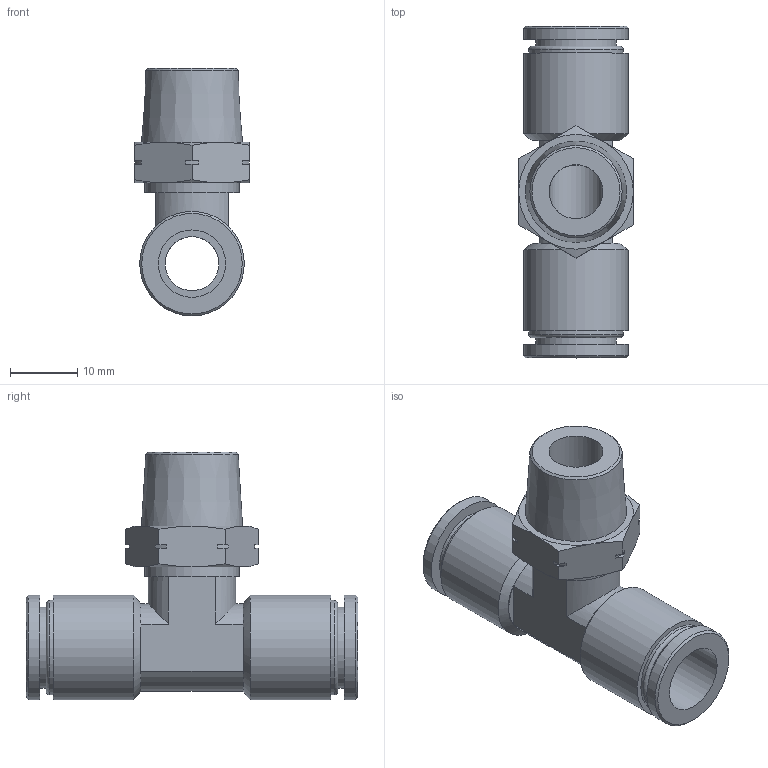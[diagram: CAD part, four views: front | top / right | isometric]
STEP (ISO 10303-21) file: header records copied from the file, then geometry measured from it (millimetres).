
FILE_DESCRIPTION(/* description */ (''),/* implementation_level */ '2;1');
FILE_NAME(/* name */ 'LXH31 0010 N3.stp',/* time_stamp */ '2025-09-16T13:06:08+02:00',/* author */ ('freju'),/* organization */ (''),/* preprocessor_version */ 'ST-DEVELOPER v20.1',/* originating_system */ 'Autodesk Inventor 2026',/* authorisation */ '');
FILE_SCHEMA (('AUTOMOTIVE_DESIGN { 1 0 10303 214 3 1 1 }'));
Length unit declared in the file: millimetre
Products named in the file (1): LXH31 0010 N3
Bounding box: 17 x 49.2 x 36.75 mm (x, y, z)
Volume: 7244.8 mm3; surface area: 6204.6 mm2
Topology: 1 solids, 1 shells, 86 faces, 199 edges, 125 vertices
Faces by surface type: plane 38, cylinder 28, cone 18, torus 2
Full cylindrical faces by diameter (mm): 8 x2, 10 x2, 12 x2, 14 x3, 15.5 x4
Entity records: 2469 total; most frequent: CARTESIAN_POINT 459, DIRECTION 432, ORIENTED_EDGE 398, EDGE_CURVE 199, AXIS2_PLACEMENT_3D 170, VERTEX_POINT 125, EDGE_LOOP 100, LINE 92
